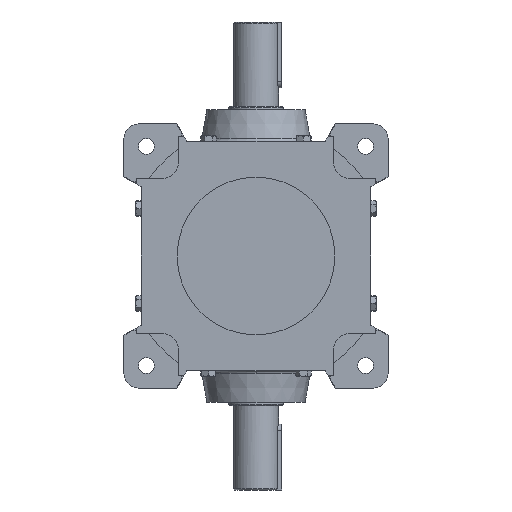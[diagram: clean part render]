
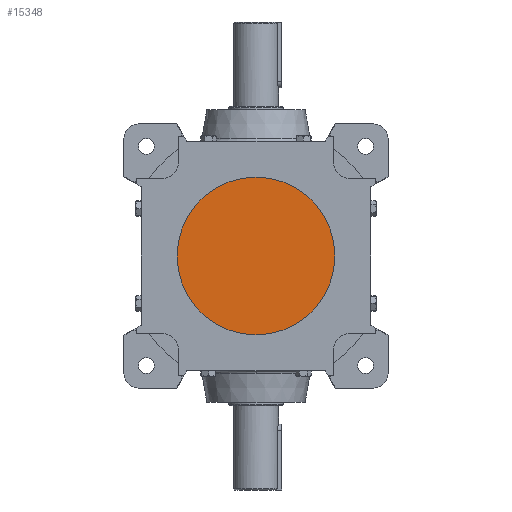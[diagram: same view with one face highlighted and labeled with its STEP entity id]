
A CAD part, front view. The second image highlights one B-rep face of the part: STEP entity #15348.
In plain terms, the highlighted planar face has unit normal (0, -1, 0).
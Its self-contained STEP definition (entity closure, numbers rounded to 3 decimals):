
#798 = CIRCLE ( 'NONE', #13153, 70.145 ) ;
#1577 = PLANE ( 'NONE',  #8008 ) ;
#3755 = ORIENTED_EDGE ( 'NONE', *, *, #10115, .T. ) ;
#5391 = EDGE_LOOP ( 'NONE', ( #3755, #9702 ) ) ;
#5711 = CARTESIAN_POINT ( 'NONE',  ( 0., -98.9, 0. ) ) ;
#5748 = CIRCLE ( 'NONE', #17387, 70.145 ) ;
#6132 = DIRECTION ( 'NONE',  ( 0., 0., -1. ) ) ;
#6696 = DIRECTION ( 'NONE',  ( 0., -1., 0. ) ) ;
#7215 = VERTEX_POINT ( 'NONE', #16741 ) ;
#8008 = AXIS2_PLACEMENT_3D ( 'NONE', #5711, #17169, #10046 ) ;
#9702 = ORIENTED_EDGE ( 'NONE', *, *, #17659, .T. ) ;
#10046 = DIRECTION ( 'NONE',  ( 0., 0., -1. ) ) ;
#10115 = EDGE_CURVE ( 'NONE', #7215, #11354, #798, .T. ) ;
#11354 = VERTEX_POINT ( 'NONE', #18047 ) ;
#11771 = CARTESIAN_POINT ( 'NONE',  ( 0., -98.9, 0. ) ) ;
#12444 = DIRECTION ( 'NONE',  ( 0., 0., -1. ) ) ;
#13153 = AXIS2_PLACEMENT_3D ( 'NONE', #11771, #17332, #6132 ) ;
#15265 = CARTESIAN_POINT ( 'NONE',  ( 0., -98.9, 0. ) ) ;
#15348 = ADVANCED_FACE ( 'NONE', ( #17875 ), #1577, .T. ) ;
#16741 = CARTESIAN_POINT ( 'NONE',  ( 0., -98.9, -70.145 ) ) ;
#17169 = DIRECTION ( 'NONE',  ( 0., -1., 0. ) ) ;
#17332 = DIRECTION ( 'NONE',  ( 0., -1., 0. ) ) ;
#17387 = AXIS2_PLACEMENT_3D ( 'NONE', #15265, #6696, #12444 ) ;
#17659 = EDGE_CURVE ( 'NONE', #11354, #7215, #5748, .T. ) ;
#17875 = FACE_OUTER_BOUND ( 'NONE', #5391, .T. ) ;
#18047 = CARTESIAN_POINT ( 'NONE',  ( 0., -98.9, 70.145 ) ) ;
